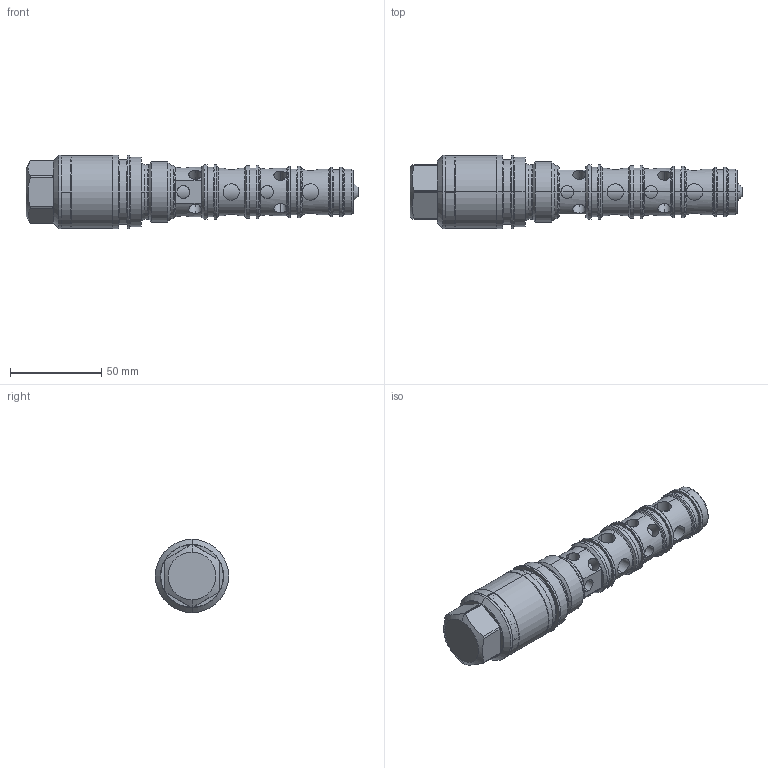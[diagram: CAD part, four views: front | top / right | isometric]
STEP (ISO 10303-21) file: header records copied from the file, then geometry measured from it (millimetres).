
FILE_DESCRIPTION (( 'STEP AP214' ), '1' );
FILE_NAME ('WVPM33.STEP', '2017-03-07T14:02:35', ( '' ), ( '' ), 'SwSTEP 2.0', 'SolidWorks 2016', '' );
FILE_SCHEMA (( 'AUTOMOTIVE_DESIGN' ));
Length unit declared in the file: millimetre
Products named in the file (1): WVPM33
Bounding box: 181.5 x 40 x 40 mm (x, y, z)
Volume: 127856.8 mm3; surface area: 27370.7 mm2
Topology: 2 solids, 4 shells, 300 faces, 685 edges, 420 vertices
Faces by surface type: cylinder 158, torus 54, plane 46, cone 42
Entity records: 14460 total; most frequent: CARTESIAN_POINT 4732, DIRECTION 1443, ORIENTED_EDGE 1362, EDGE_CURVE 681, AXIS2_PLACEMENT_3D 619, VERTEX_POINT 420, EDGE_LOOP 335, CIRCLE 318
